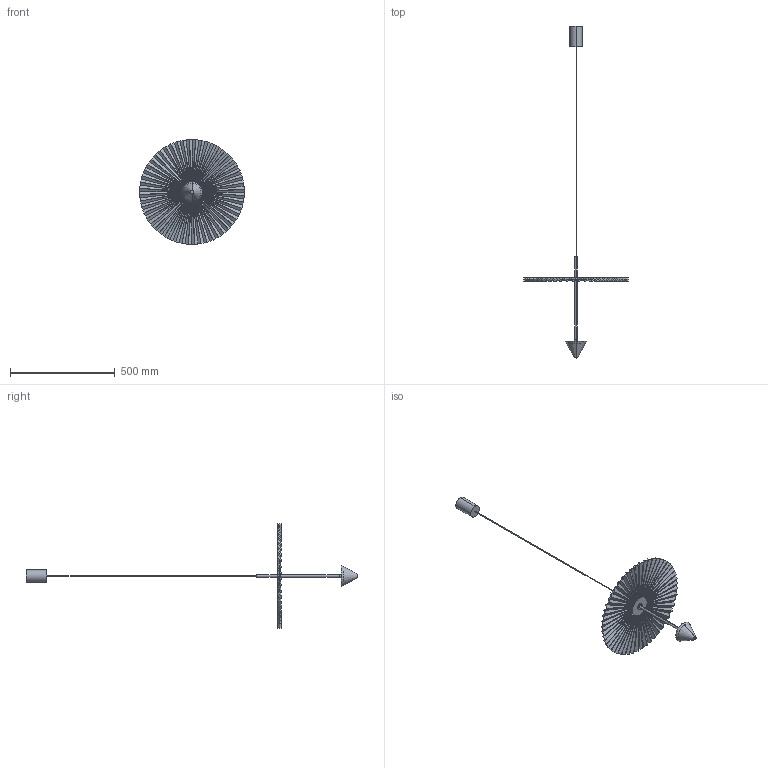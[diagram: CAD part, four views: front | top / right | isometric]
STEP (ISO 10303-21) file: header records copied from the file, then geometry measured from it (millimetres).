
FILE_DESCRIPTION (( 'STEP AP214' ), '1' );
FILE_NAME('CAL010883','',(''),(''),'','','');
FILE_SCHEMA (( 'AUTOMOTIVE_DESIGN' ));
Length unit declared in the file: millimetre
Products named in the file (1): CAL010883_CAL010883
Bounding box: 500.27 x 1585 x 500.27 mm (x, y, z)
Surface area: 597727.8 mm2 (no closed solid volume)
Topology: 0 solids, 13 shells, 806 faces, 2024 edges, 1244 vertices
Faces by surface type: bspline 737, cylinder 33, plane 26, cone 6, torus 4
Entity records: 32728 total; most frequent: CARTESIAN_POINT 10636, ORIENTED_EDGE 4044, EDGE_CURVE 2024, B_SPLINE_CURVE_WITH_KNOTS 1884, VERTEX_POINT 1244, UNCERTAINTY_MEASURE_WITH_UNIT 820, MECHANICAL_DESIGN_GEOMETRIC_PRESENTATION_REPRESENTATION 819, FILL_AREA_STYLE_COLOUR 819
